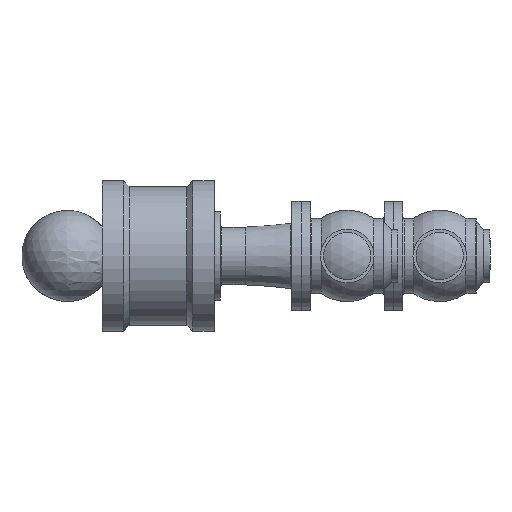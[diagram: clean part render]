
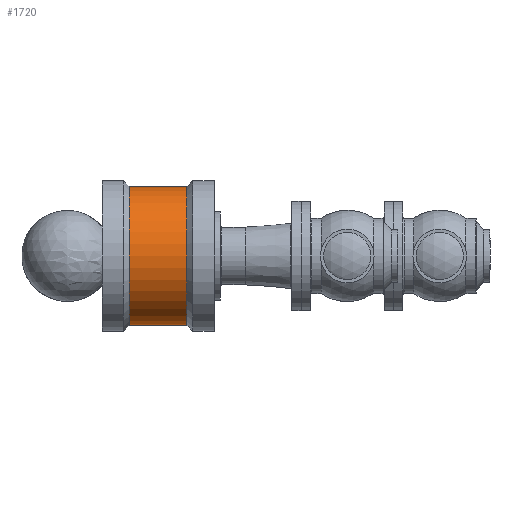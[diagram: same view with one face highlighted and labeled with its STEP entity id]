
A CAD part, left-side view. The second image highlights one B-rep face of the part: STEP entity #1720.
In plain terms, the highlighted cylindrical face has radius 110.5 mm (diameter 221 mm), a full revolution.
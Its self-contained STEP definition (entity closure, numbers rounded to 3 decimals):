
#262=FACE_OUTER_BOUND('',#363,.T.);
#363=EDGE_LOOP('',(#1248,#1249,#1250,#1251,#1252,#1253));
#474=LINE('',#3079,#517);
#517=VECTOR('',#2402,110.5);
#582=CIRCLE('',#2007,110.5);
#583=CIRCLE('',#2008,110.5);
#584=CIRCLE('',#2010,110.5);
#585=CIRCLE('',#2011,110.5);
#773=VERTEX_POINT('',#3069);
#774=VERTEX_POINT('',#3070);
#775=VERTEX_POINT('',#3075);
#776=VERTEX_POINT('',#3076);
#965=EDGE_CURVE('',#773,#774,#582,.T.);
#966=EDGE_CURVE('',#774,#773,#583,.T.);
#968=EDGE_CURVE('',#775,#776,#584,.T.);
#969=EDGE_CURVE('',#776,#775,#585,.T.);
#970=EDGE_CURVE('',#776,#774,#474,.T.);
#1248=ORIENTED_EDGE('',*,*,#968,.F.);
#1249=ORIENTED_EDGE('',*,*,#969,.F.);
#1250=ORIENTED_EDGE('',*,*,#970,.T.);
#1251=ORIENTED_EDGE('',*,*,#966,.T.);
#1252=ORIENTED_EDGE('',*,*,#965,.T.);
#1253=ORIENTED_EDGE('',*,*,#970,.F.);
#1672=CYLINDRICAL_SURFACE('',#2009,110.5);
#1720=ADVANCED_FACE('',(#262),#1672,.T.);
#2007=AXIS2_PLACEMENT_3D('',#3071,#2391,#2392);
#2008=AXIS2_PLACEMENT_3D('',#3072,#2393,#2394);
#2009=AXIS2_PLACEMENT_3D('',#3074,#2396,#2397);
#2010=AXIS2_PLACEMENT_3D('',#3077,#2398,#2399);
#2011=AXIS2_PLACEMENT_3D('',#3078,#2400,#2401);
#2391=DIRECTION('center_axis',(0.,1.,0.));
#2392=DIRECTION('ref_axis',(1.,0.,0.));
#2393=DIRECTION('center_axis',(0.,1.,0.));
#2394=DIRECTION('ref_axis',(1.,0.,0.));
#2396=DIRECTION('center_axis',(0.,1.,0.));
#2397=DIRECTION('ref_axis',(0.,0.,1.));
#2398=DIRECTION('center_axis',(0.,1.,0.));
#2399=DIRECTION('ref_axis',(1.,0.,0.));
#2400=DIRECTION('center_axis',(0.,1.,0.));
#2401=DIRECTION('ref_axis',(1.,0.,0.));
#2402=DIRECTION('',(0.,-1.,0.));
#3069=CARTESIAN_POINT('',(0.,43.,110.5));
#3070=CARTESIAN_POINT('',(0.,43.,-110.5));
#3071=CARTESIAN_POINT('Origin',(0.,43.,0.));
#3072=CARTESIAN_POINT('Origin',(0.,43.,0.));
#3074=CARTESIAN_POINT('Origin',(0.,89.,0.));
#3075=CARTESIAN_POINT('',(0.,135.,110.5));
#3076=CARTESIAN_POINT('',(0.,135.,-110.5));
#3077=CARTESIAN_POINT('Origin',(0.,135.,0.));
#3078=CARTESIAN_POINT('Origin',(0.,135.,0.));
#3079=CARTESIAN_POINT('',(0.,89.,-110.5));
